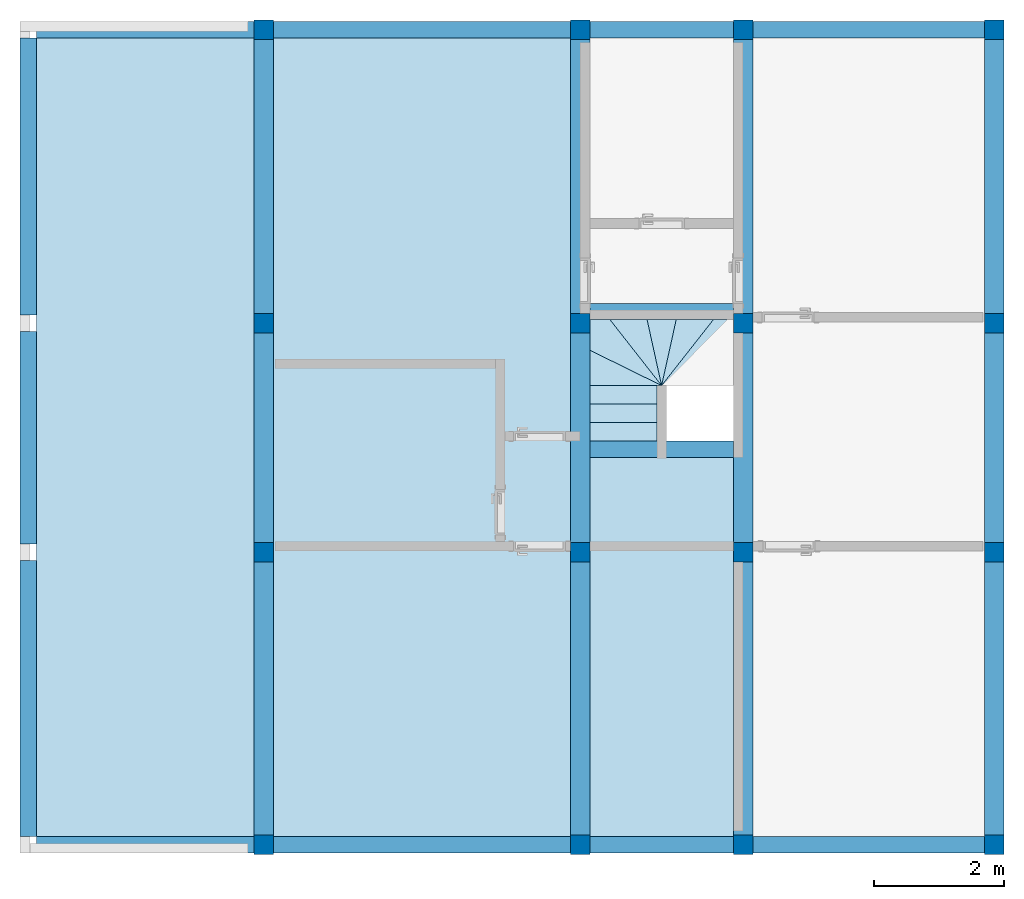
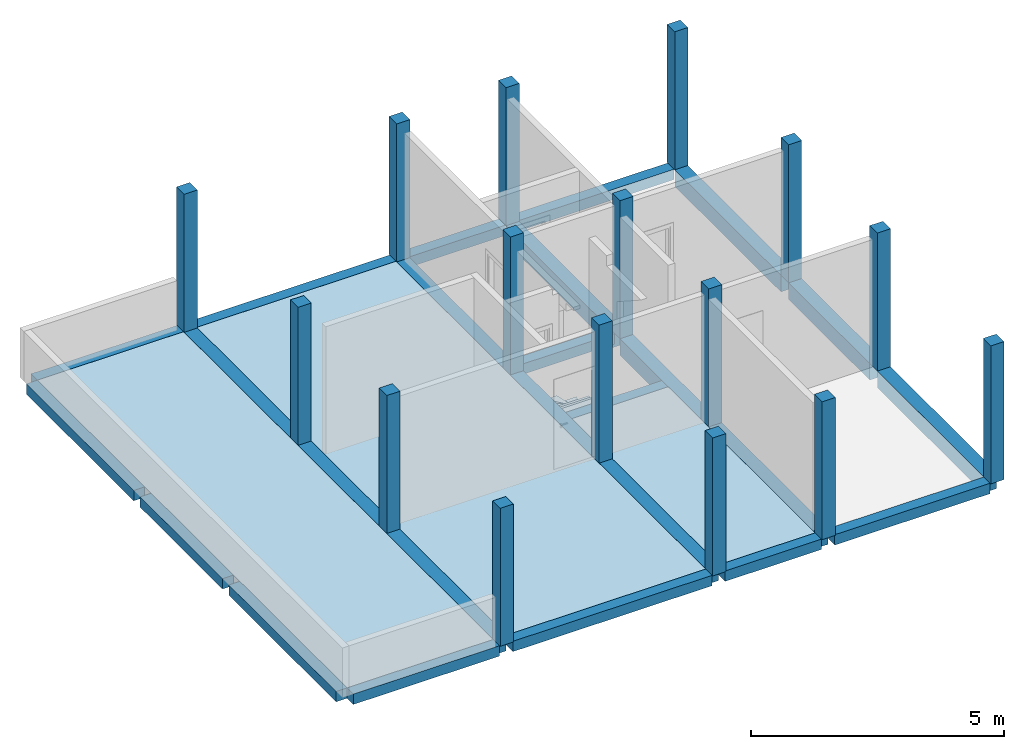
# One storey, part 1 of 11: 25 beams, 16 columns, 5 slabs.
"""IFC2X3 building model written with IfcOpenShell, lengths in metres."""

import ifcopenshell
import ifcopenshell.guid

model = None  # the IFC model being written
_history = None  # IfcOwnerHistory: only IFC2X3 demands one
_inside = {}  # id of a spatial element -> (the spatial element, [elements in it])
_under = {}  # id of a project, library or spatial element -> (it, [spatial elements below it])
_declared = {}  # id of a project -> (the project, [libraries it declares])
_typed = {}  # id of a type object -> (the type object, [elements of that type])
_made_of = {}  # id of a material, layer set ... -> (it, [elements and type objects made of it])


def new_model(schema):
    """Start an empty IFC model of exactly this schema.

    Asked for "IFC4X3", IfcOpenShell would pick the latest addendum, in which some entities
    have other attributes; the version numbers below select the first issue.
    IFC2X3 requires an IfcOwnerHistory on every rooted entity: one is made here for all.
    """
    global model, _history
    if schema == "IFC4X3":
        model = ifcopenshell.file(schema_version=(4, 3, 0, 0))
    else:
        model = ifcopenshell.file(schema=schema)
    _inside.clear()
    _under.clear()
    _declared.clear()
    _typed.clear()
    _made_of.clear()
    _history = None
    if model.schema == "IFC2X3":
        org = make("IfcOrganization", Name="unknown")
        user = make(
            "IfcPersonAndOrganization",
            ThePerson=make("IfcPerson", FamilyName="unknown"),
            TheOrganization=org,
        )
        app = make(
            "IfcApplication",
            ApplicationDeveloper=org,
            Version="unknown",
            ApplicationFullName="unknown",
            ApplicationIdentifier="unknown",
        )
        _history = make(
            "IfcOwnerHistory",
            OwningUser=user,
            OwningApplication=app,
            ChangeAction="ADDED",
            CreationDate=0,
        )
    return model


def make(cls, **values):
    """One entity of the class cls with the attributes given. An attribute that is None is left unset."""
    return model.create_entity(
        cls, **{name: value for name, value in values.items() if value is not None}
    )


def entity(cls, *values):
    """Any entity or typed value of the class cls, its attributes in the order of the schema. None: left unset."""
    e = model.create_entity(cls)
    for i, value in enumerate(values):
        if value is not None:
            e[i] = value
    return e


def rooted(cls, **values):
    """An entity with a GlobalId (a new one), such as an element, a storey or a relation."""
    return make(cls, GlobalId=ifcopenshell.guid.new(), OwnerHistory=_history, **values)


def si_unit(unit_type, name, prefix=None):
    """IfcSIUnit, for example si_unit("LENGTHUNIT", "METRE", prefix="MILLI")."""
    return make("IfcSIUnit", UnitType=unit_type, Prefix=prefix, Name=name)


def converted_unit(unit_type, name, factor, base, dimensions=None, offset=None):
    """IfcConversionBasedUnit, such as the inch: factor (a typed value) times the base unit."""
    return make(
        "IfcConversionBasedUnit"
        if offset is None
        else "IfcConversionBasedUnitWithOffset",
        ConversionOffset=offset,
        Dimensions=None
        if dimensions is None
        else entity("IfcDimensionalExponents", *dimensions),
        UnitType=unit_type,
        Name=name,
        ConversionFactor=make(
            "IfcMeasureWithUnit", ValueComponent=factor, UnitComponent=base
        ),
    )


def derived_unit(unit_type, elements):
    """IfcDerivedUnit: a product of units, each with its exponent."""
    return make(
        "IfcDerivedUnit",
        Elements=[
            make("IfcDerivedUnitElement", Unit=unit, Exponent=power)
            for unit, power in elements
        ],
        UnitType=unit_type,
    )


def assignment(units):
    """IfcUnitAssignment: the units of a project."""
    return None if units is None else make("IfcUnitAssignment", Units=units)


def point(xyz):
    """IfcCartesianPoint."""
    return None if xyz is None else make("IfcCartesianPoint", Coordinates=xyz)


def direction(xyz):
    """IfcDirection."""
    return None if xyz is None else make("IfcDirection", DirectionRatios=xyz)


def frame(location, z_axis=None, x_axis=None):
    """IfcAxis2Placement3D, a coordinate frame: its origin and axes. An axis left out is left unset."""
    return make(
        "IfcAxis2Placement3D",
        Location=point(location),
        Axis=direction(z_axis),
        RefDirection=direction(x_axis),
    )


def frame_2d(location, x_axis=None):
    """IfcAxis2Placement2D, a coordinate frame in the plane: its origin and x axis."""
    return make(
        "IfcAxis2Placement2D", Location=point(location), RefDirection=direction(x_axis)
    )


def origin():
    """The frame at (0, 0, 0) with its axes left unset."""
    return frame((0.0, 0.0, 0.0))


def origin_2d_with_axis():
    """The frame at (0, 0) in the plane with the x axis (1, 0) written out."""
    return frame_2d((0.0, 0.0), x_axis=(1.0, 0.0))


def place(relative_to, where):
    """IfcLocalPlacement: puts the frame where relative to a parent placement (None: the world)."""
    return make(
        "IfcLocalPlacement", PlacementRelTo=relative_to, RelativePlacement=where
    )


def context(
    kind, dimensions, precision=None, world=None, true_north=None, identifier=None
):
    """IfcGeometricRepresentationContext, for example the 3D "Model" context."""
    return make(
        "IfcGeometricRepresentationContext",
        ContextIdentifier=identifier,
        ContextType=kind,
        CoordinateSpaceDimension=dimensions,
        Precision=precision,
        WorldCoordinateSystem=world,
        TrueNorth=true_north,
    )


def subcontext(parent, identifier, kind, view, scale=None):
    """IfcGeometricRepresentationSubContext, for example "Body" below "Model"."""
    return make(
        "IfcGeometricRepresentationSubContext",
        ContextIdentifier=identifier,
        ContextType=kind,
        ParentContext=parent,
        TargetScale=scale,
        TargetView=view,
    )


def project(units=None, contexts=None):
    """IfcProject with its units and contexts."""
    return rooted(
        "IfcProject",
        Name="project",
        RepresentationContexts=contexts,
        UnitsInContext=assignment(units),
    )


def spatial(cls, under=None, at=None, **own):
    """A site, building, storey or space (cls), placed at a placement, below another one or the project."""
    s = rooted(cls, ObjectPlacement=at, **own)
    if under is not None:
        _under.setdefault(under.id(), (under, []))[1].append(s)
    return s


def polyline(points):
    """IfcPolyline through the points."""
    return make("IfcPolyline", Points=[point(p) for p in points])


def profile(cls, at=None, kind="AREA", **sizes):
    """A parametric profile (cls). Its sizes go by their IFC names, for example OverallWidth=200.0."""
    return make(cls, ProfileType=kind, Position=at, **sizes)


def rectangle(**sizes):
    """IfcRectangleProfileDef."""
    return profile("IfcRectangleProfileDef", **sizes)


def outline(outer, holes=None, kind="AREA"):
    """IfcArbitraryClosedProfileDef: a profile drawn as a closed curve; with holes, ...WithVoids."""
    if holes is None:
        return make("IfcArbitraryClosedProfileDef", ProfileType=kind, OuterCurve=outer)
    return make(
        "IfcArbitraryProfileDefWithVoids",
        ProfileType=kind,
        OuterCurve=outer,
        InnerCurves=holes,
    )


def extrude(swept, where, along, depth):
    """IfcExtrudedAreaSolid: the profile swept, set in the frame where, extruded along a direction by depth."""
    return make(
        "IfcExtrudedAreaSolid",
        SweptArea=swept,
        Position=where,
        ExtrudedDirection=direction(along),
        Depth=depth,
    )


def shape(context_of_items, identifier, shape_type, items):
    """IfcShapeRepresentation: the items that make up one representation, for example the "Body"."""
    return make(
        "IfcShapeRepresentation",
        ContextOfItems=context_of_items,
        RepresentationIdentifier=identifier,
        RepresentationType=shape_type,
        Items=items,
    )


def source(mapping_origin, context_of_items, identifier, shape_type, items):
    """IfcRepresentationMap: a shape defined once, which mapped items show again and again."""
    return make(
        "IfcRepresentationMap",
        MappingOrigin=mapping_origin,
        MappedRepresentation=shape(context_of_items, identifier, shape_type, items),
    )


def transform(
    local_origin,
    x_axis=None,
    y_axis=None,
    z_axis=None,
    scale=None,
    scale2=None,
    scale3=None,
    uniform=True,
):
    """IfcCartesianTransformationOperator3D, or its non-uniform kind. x_axis, y_axis, z_axis: its Axis1, 2, 3."""
    if uniform:
        return make(
            "IfcCartesianTransformationOperator3D",
            Axis1=direction(x_axis),
            Axis2=direction(y_axis),
            LocalOrigin=point(local_origin),
            Scale=scale,
            Axis3=direction(z_axis),
        )
    return make(
        "IfcCartesianTransformationOperator3DnonUniform",
        Axis1=direction(x_axis),
        Axis2=direction(y_axis),
        LocalOrigin=point(local_origin),
        Scale=scale,
        Axis3=direction(z_axis),
        Scale2=scale2,
        Scale3=scale3,
    )


def mapped(mapping_source, mapping_target):
    """IfcMappedItem: shows the shape of a source again, moved by a transform."""
    return make(
        "IfcMappedItem", MappingSource=mapping_source, MappingTarget=mapping_target
    )


def material(Name=None, Category=None):
    """IfcMaterial."""
    return make("IfcMaterial", Name=Name, Category=Category)


def layer(
    of_material, thickness, ventilated=None, Name=None, Category=None, Priority=None
):
    """IfcMaterialLayer: one layer of a wall or slab, of a material (None: an air gap)."""
    return make(
        "IfcMaterialLayer",
        Material=of_material,
        LayerThickness=thickness,
        IsVentilated=ventilated,
        Name=Name,
        Category=Category,
        Priority=Priority,
    )


def layer_set(layers, Name=None):
    """IfcMaterialLayerSet."""
    return make("IfcMaterialLayerSet", MaterialLayers=layers, LayerSetName=Name)


def layer_usage(for_layer_set, set_direction, sense, offset, extent=None):
    """IfcMaterialLayerSetUsage: how a layer set lies in its element."""
    return make(
        "IfcMaterialLayerSetUsage",
        ForLayerSet=for_layer_set,
        LayerSetDirection=set_direction,
        DirectionSense=sense,
        OffsetFromReferenceLine=offset,
        ReferenceExtent=extent,
    )


def made_of(thing, what):
    """Note that an element or type object is made of a material, layer set ...; save() writes the relation."""
    if what is not None:
        _made_of.setdefault(what.id(), (what, []))[1].append(thing)
    return thing


def type_object(cls, material=None, **own):
    """A type object (cls), such as IfcWallType, which elements share."""
    return made_of(rooted(cls, **own), material)


def type_shapes(of_type, sources):
    """Give a type object the sources (RepresentationMaps) that its elements show as mapped items."""
    of_type.RepresentationMaps = sources


def element(
    cls,
    number,
    at=None,
    inside=None,
    cuts=None,
    type_object=None,
    material=None,
    context=None,
    identifier="Body",
    shape_type=None,
    held_by="IfcProductDefinitionShape",
    body=None,
    shapes=None,
    **own,
):
    """One element of the class cls, such as IfcWall. Its Tag is "e" and its number.

    at: its placement. inside: the storey or other place that contains it. cuts: it is an
    opening in that element (IfcRelVoidsElement). A single representation is given by context,
    identifier, shape_type and body (its items); several are given by shapes. held_by: the class
    of the entity that holds the representations. save() writes the other relations.
    """
    e = rooted(cls, Tag="e%d" % number, ObjectPlacement=at, **own)
    if body is not None:
        shapes = [shape(context, identifier, shape_type, body)]
    if shapes is not None:
        e.Representation = make(held_by, Representations=shapes)
    if inside is not None:
        _inside.setdefault(inside.id(), (inside, []))[1].append(e)
    if cuts is not None:
        rooted(
            "IfcRelVoidsElement", RelatingBuildingElement=cuts, RelatedOpeningElement=e
        )
    if type_object is not None:
        _typed.setdefault(type_object.id(), (type_object, []))[1].append(e)
    return made_of(e, material)


def aggregate(whole, parts):
    """IfcRelAggregates: a whole, such as a stair, and the parts it consists of."""
    return rooted("IfcRelAggregates", RelatingObject=whole, RelatedObjects=parts)


def save(model, path):
    """Write the relations noted so far, then the file.

    IfcRelAggregates (storeys below a building ...), IfcRelContainedInSpatialStructure (elements
    in a storey), IfcRelDefinesByType, IfcRelAssociatesMaterial and IfcRelDeclares: one each for
    every whole, place, type object, material and project.
    """
    for whole, parts in _under.values():
        aggregate(whole, parts)
    for where, things in _inside.values():
        rooted(
            "IfcRelContainedInSpatialStructure",
            RelatedElements=things,
            RelatingStructure=where,
        )
    for kind, things in _typed.values():
        rooted("IfcRelDefinesByType", RelatedObjects=things, RelatingType=kind)
    for what, things in _made_of.values():
        rooted("IfcRelAssociatesMaterial", RelatedObjects=things, RelatingMaterial=what)
    for by, libraries in _declared.values():
        rooted("IfcRelDeclares", RelatingContext=by, RelatedDefinitions=libraries)
    model.write(path)


model = new_model("IFC2X3")

# Units and contexts
model_context = context("Model", 3, precision=1e-05, world=origin(), true_north=direction((6.12303176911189e-17, 1.0)))
context_of_model = context(None, 3, precision=1e-05, world=origin(), true_north=direction((6.12303176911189e-17, 1.0)))
body_context = subcontext(model_context, "Body", "Model", "MODEL_VIEW")
ifc_project = project(units=[si_unit("LENGTHUNIT", "METRE"), si_unit("AREAUNIT", "SQUARE_METRE"), si_unit("VOLUMEUNIT", "CUBIC_METRE"), converted_unit("PLANEANGLEUNIT", "DEGREE", entity("IfcRatioMeasure", 0.0174532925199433), si_unit("PLANEANGLEUNIT", "RADIAN"), dimensions=[0, 0, 0, 0, 0, 0, 0]), si_unit("MASSUNIT", "GRAM", prefix="KILO"), si_unit("TIMEUNIT", "SECOND"), si_unit("FREQUENCYUNIT", "HERTZ"), si_unit("THERMODYNAMICTEMPERATUREUNIT", "DEGREE_CELSIUS"), derived_unit("THERMALTRANSMITTANCEUNIT", [(si_unit("MASSUNIT", "GRAM", prefix="KILO"), 1), (si_unit("THERMODYNAMICTEMPERATUREUNIT", "KELVIN"), -1), (si_unit("TIMEUNIT", "SECOND"), -3)]), derived_unit("VOLUMETRICFLOWRATEUNIT", [(si_unit("LENGTHUNIT", "METRE"), 3), (si_unit("TIMEUNIT", "SECOND"), -1)]), si_unit("ELECTRICCURRENTUNIT", "AMPERE"), si_unit("ELECTRICVOLTAGEUNIT", "VOLT"), si_unit("POWERUNIT", "WATT"), si_unit("FORCEUNIT", "NEWTON", prefix="KILO"), si_unit("ILLUMINANCEUNIT", "LUX"), si_unit("LUMINOUSFLUXUNIT", "LUMEN"), si_unit("LUMINOUSINTENSITYUNIT", "CANDELA"), si_unit("PRESSUREUNIT", "PASCAL")], contexts=[model_context, context_of_model])

# Site, building, storey
site_placement = place(None, origin())
site = spatial("IfcSite", under=ifc_project, at=site_placement, Name="Default", CompositionType="ELEMENT")
building_placement = place(site_placement, origin())
building = spatial("IfcBuilding", under=site, at=building_placement, CompositionType="ELEMENT")
storey_placement = place(building_placement, frame((0.0, 0.0, 3.45)))
storey = spatial("IfcBuildingStorey", under=building, at=storey_placement, Name="02.ES.PLANTA PRIMERA", CompositionType="ELEMENT", Elevation=3.45)

# Columns
column_type_1 = type_object("IfcColumnType", Name="300 x 300 mm", PredefinedType="COLUMN")
shared_shape_1 = source(origin(), body_context, "Body", "SweptSolid", [
    extrude(rectangle(XDim=0.3, YDim=0.300000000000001, at=frame_2d((0.0, -0.0416666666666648), x_axis=(1.0, 0.0))), frame((4.21500000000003, 13.0583333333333, 3.45), z_axis=(0.0, 0.0, 1.0), x_axis=(-1.0, 0.0, 0.0)), (0.0, 0.0, 1.0), 3.33),
])
type_shapes(column_type_1, [shared_shape_1])
column_1_placement = place(storey_placement, frame((0.0, 0.0, -3.45)))
element("IfcColumn", 1, at=column_1_placement, inside=storey, type_object=column_type_1, Name="Pilar rectangular hormigón:300 x 300 mm", ObjectType="300 x 300 mm", context=body_context, shape_type="MappedRepresentation", body=[
    mapped(shared_shape_1, transform((0.0, 0.0, 0.0), scale=1.0)),
])
column_type_2 = type_object("IfcColumnType", Name="300 x 300 mm", PredefinedType="COLUMN")
shared_shape_2 = source(origin(), body_context, "Body", "SweptSolid", [
    extrude(rectangle(XDim=0.3, YDim=0.300000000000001, at=frame_2d((1.08246744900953e-15, -1.08246744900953e-15), x_axis=(1.0, 0.0))), frame((9.065, 13.1, 3.45), z_axis=(0.0, 0.0, 1.0), x_axis=(-1.0, 0.0, 0.0)), (0.0, 0.0, 1.0), 3.33),
])
type_shapes(column_type_2, [shared_shape_2])
column_2_placement = place(storey_placement, frame((0.0, 0.0, -3.45)))
element("IfcColumn", 2, at=column_2_placement, inside=storey, type_object=column_type_2, Name="Pilar rectangular hormigón:300 x 300 mm", ObjectType="300 x 300 mm", context=body_context, shape_type="MappedRepresentation", body=[
    mapped(shared_shape_2, transform((0.0, 0.0, 0.0), scale=1.0)),
])
column_type_3 = type_object("IfcColumnType", Name="300 x 300 mm", PredefinedType="COLUMN")
shared_shape_3 = source(origin(), body_context, "Body", "SweptSolid", [
    extrude(rectangle(XDim=0.299999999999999, YDim=0.300000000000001, at=frame_2d((0.0300000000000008, 0.0249999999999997), x_axis=(1.0, 0.0))), frame((11.595, 13.125, 3.45), z_axis=(0.0, 0.0, 1.0), x_axis=(-1.0, 0.0, 0.0)), (0.0, 0.0, 1.0), 3.33),
])
type_shapes(column_type_3, [shared_shape_3])
column_3_placement = place(storey_placement, frame((0.0, 0.0, -3.45)))
element("IfcColumn", 3, at=column_3_placement, inside=storey, type_object=column_type_3, Name="Pilar rectangular hormigón:300 x 300 mm", ObjectType="300 x 300 mm", context=body_context, shape_type="MappedRepresentation", body=[
    mapped(shared_shape_3, transform((0.0, 0.0, 0.0), scale=1.0)),
])
column_type_4 = type_object("IfcColumnType", Name="300 x 300 mm", PredefinedType="COLUMN")
shared_shape_4 = source(origin(), body_context, "Body", "SweptSolid", [
    extrude(rectangle(XDim=0.299999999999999, YDim=0.300000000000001, at=frame_2d((-0.0299999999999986, 0.0250000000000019), x_axis=(1.0, 0.0))), frame((15.385, 13.125, 3.45), z_axis=(0.0, 0.0, 1.0), x_axis=(-1.0, 0.0, 0.0)), (0.0, 0.0, 1.0), 3.33),
])
type_shapes(column_type_4, [shared_shape_4])
column_4_placement = place(storey_placement, frame((0.0, 0.0, -3.45)))
element("IfcColumn", 4, at=column_4_placement, inside=storey, type_object=column_type_4, Name="Pilar rectangular hormigón:300 x 300 mm", ObjectType="300 x 300 mm", context=body_context, shape_type="MappedRepresentation", body=[
    mapped(shared_shape_4, transform((0.0, 0.0, 0.0), scale=1.0)),
])
column_type_5 = type_object("IfcColumnType", Name="300 x 300 mm", PredefinedType="COLUMN")
shared_shape_5 = source(origin(), body_context, "Body", "SweptSolid", [
    extrude(rectangle(XDim=0.3, YDim=0.3, at=frame_2d((0.0, 5.41233724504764e-16), x_axis=(1.0, 0.0))), frame((4.21500000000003, 8.60000000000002, 3.45), z_axis=(0.0, 0.0, 1.0), x_axis=(-1.0, 0.0, 0.0)), (0.0, 0.0, 1.0), 3.33),
])
type_shapes(column_type_5, [shared_shape_5])
column_5_placement = place(storey_placement, frame((0.0, 0.0, -3.45)))
element("IfcColumn", 5, at=column_5_placement, inside=storey, type_object=column_type_5, Name="Pilar rectangular hormigón:300 x 300 mm", ObjectType="300 x 300 mm", context=body_context, shape_type="MappedRepresentation", body=[
    mapped(shared_shape_5, transform((0.0, 0.0, 0.0), scale=1.0)),
])
column_type_6 = type_object("IfcColumnType", Name="300 x 300 mm", PredefinedType="COLUMN")
shared_shape_6 = source(origin(), body_context, "Body", "SweptSolid", [
    extrude(rectangle(XDim=0.3, YDim=0.3, at=frame_2d((5.41233724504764e-16, 5.41233724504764e-16), x_axis=(1.0, 0.0))), frame((9.065, 8.60000000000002, 3.45), z_axis=(0.0, 0.0, 1.0), x_axis=(-1.0, 0.0, 0.0)), (0.0, 0.0, 1.0), 3.33),
])
type_shapes(column_type_6, [shared_shape_6])
column_6_placement = place(storey_placement, frame((0.0, 0.0, -3.45)))
element("IfcColumn", 6, at=column_6_placement, inside=storey, type_object=column_type_6, Name="Pilar rectangular hormigón:300 x 300 mm", ObjectType="300 x 300 mm", context=body_context, shape_type="MappedRepresentation", body=[
    mapped(shared_shape_6, transform((0.0, 0.0, 0.0), scale=1.0)),
])
column_type_7 = type_object("IfcColumnType", Name="300 x 300 mm", PredefinedType="COLUMN")
shared_shape_7 = source(origin(), body_context, "Body", "SweptSolid", [
    extrude(rectangle(XDim=0.299999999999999, YDim=0.3, at=frame_2d((-0.021428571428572, 0.00785714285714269), x_axis=(1.0, 0.0))), frame((11.5435714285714, 8.60785714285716, 3.45), z_axis=(0.0, 0.0, 1.0), x_axis=(-1.0, 0.0, 0.0)), (0.0, 0.0, 1.0), 3.33),
])
type_shapes(column_type_7, [shared_shape_7])
column_7_placement = place(storey_placement, frame((0.0, 0.0, -3.45)))
element("IfcColumn", 7, at=column_7_placement, inside=storey, type_object=column_type_7, Name="Pilar rectangular hormigón:300 x 300 mm", ObjectType="300 x 300 mm", context=body_context, shape_type="MappedRepresentation", body=[
    mapped(shared_shape_7, transform((0.0, 0.0, 0.0), scale=1.0)),
])
column_type_8 = type_object("IfcColumnType", Name="300 x 300 mm", PredefinedType="COLUMN")
shared_shape_8 = source(origin(), body_context, "Body", "SweptSolid", [
    extrude(rectangle(XDim=0.299999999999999, YDim=0.3, at=frame_2d((1.08246744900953e-15, 5.41233724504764e-16), x_axis=(1.0, 0.0))), frame((15.415, 8.60000000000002, 3.45), z_axis=(0.0, 0.0, 1.0), x_axis=(-1.0, 0.0, 0.0)), (0.0, 0.0, 1.0), 3.33),
])
type_shapes(column_type_8, [shared_shape_8])
column_8_placement = place(storey_placement, frame((0.0, 0.0, -3.45)))
element("IfcColumn", 8, at=column_8_placement, inside=storey, type_object=column_type_8, Name="Pilar rectangular hormigón:300 x 300 mm", ObjectType="300 x 300 mm", context=body_context, shape_type="MappedRepresentation", body=[
    mapped(shared_shape_8, transform((0.0, 0.0, 0.0), scale=1.0)),
])
column_type_9 = type_object("IfcColumnType", Name="300 x 300 mm", PredefinedType="COLUMN")
shared_shape_9 = source(origin(), body_context, "Body", "SweptSolid", [
    extrude(rectangle(XDim=0.3, YDim=0.3, at=frame_2d((0.0, 5.41233724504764e-16), x_axis=(1.0, 0.0))), frame((4.21500000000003, 5.09006108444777, 3.45), z_axis=(0.0, 0.0, 1.0), x_axis=(-1.0, 0.0, 0.0)), (0.0, 0.0, 1.0), 3.33),
])
type_shapes(column_type_9, [shared_shape_9])
column_9_placement = place(storey_placement, frame((0.0, 0.0, -3.45)))
element("IfcColumn", 9, at=column_9_placement, inside=storey, type_object=column_type_9, Name="Pilar rectangular hormigón:300 x 300 mm", ObjectType="300 x 300 mm", context=body_context, shape_type="MappedRepresentation", body=[
    mapped(shared_shape_9, transform((0.0, 0.0, 0.0), scale=1.0)),
])
column_type_10 = type_object("IfcColumnType", Name="300 x 300 mm", PredefinedType="COLUMN")
shared_shape_10 = source(origin(), body_context, "Body", "SweptSolid", [
    extrude(rectangle(XDim=0.3, YDim=0.3, at=frame_2d((5.41233724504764e-16, 0.00500000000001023), x_axis=(1.0, 0.0))), frame((9.065, 5.09506108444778, 3.45), z_axis=(0.0, 0.0, 1.0), x_axis=(-1.0, 0.0, 0.0)), (0.0, 0.0, 1.0), 3.33),
])
type_shapes(column_type_10, [shared_shape_10])
column_10_placement = place(storey_placement, frame((0.0, 0.0, -3.45)))
element("IfcColumn", 10, at=column_10_placement, inside=storey, type_object=column_type_10, Name="Pilar rectangular hormigón:300 x 300 mm", ObjectType="300 x 300 mm", context=body_context, shape_type="MappedRepresentation", body=[
    mapped(shared_shape_10, transform((0.0, 0.0, 0.0), scale=1.0)),
])
column_type_11 = type_object("IfcColumnType", Name="300 x 300 mm", PredefinedType="COLUMN")
shared_shape_11 = source(origin(), body_context, "Body", "SweptSolid", [
    extrude(rectangle(XDim=0.299999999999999, YDim=0.3, at=frame_2d((1.08246744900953e-15, 0.00500000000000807), x_axis=(1.0, 0.0))), frame((11.565, 5.09506108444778, 3.45), z_axis=(0.0, 0.0, 1.0), x_axis=(-1.0, 0.0, 0.0)), (0.0, 0.0, 1.0), 3.33),
])
type_shapes(column_type_11, [shared_shape_11])
column_11_placement = place(storey_placement, frame((0.0, 0.0, -3.45)))
element("IfcColumn", 11, at=column_11_placement, inside=storey, type_object=column_type_11, Name="Pilar rectangular hormigón:300 x 300 mm", ObjectType="300 x 300 mm", context=body_context, shape_type="MappedRepresentation", body=[
    mapped(shared_shape_11, transform((0.0, 0.0, 0.0), scale=1.0)),
])
column_type_12 = type_object("IfcColumnType", Name="300 x 300 mm", PredefinedType="COLUMN")
shared_shape_12 = source(origin(), body_context, "Body", "SweptSolid", [
    extrude(rectangle(XDim=0.299999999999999, YDim=0.3, at=frame_2d((1.08246744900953e-15, 5.41233724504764e-16), x_axis=(1.0, 0.0))), frame((15.415, 5.09006108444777, 3.45), z_axis=(0.0, 0.0, 1.0), x_axis=(-1.0, 0.0, 0.0)), (0.0, 0.0, 1.0), 3.33),
])
type_shapes(column_type_12, [shared_shape_12])
column_12_placement = place(storey_placement, frame((0.0, 0.0, -3.45)))
element("IfcColumn", 12, at=column_12_placement, inside=storey, type_object=column_type_12, Name="Pilar rectangular hormigón:300 x 300 mm", ObjectType="300 x 300 mm", context=body_context, shape_type="MappedRepresentation", body=[
    mapped(shared_shape_12, transform((0.0, 0.0, 0.0), scale=1.0)),
])
column_type_13 = type_object("IfcColumnType", Name="300 x 300 mm", PredefinedType="COLUMN")
shared_shape_13 = source(origin(), body_context, "Body", "SweptSolid", [
    extrude(rectangle(XDim=0.3, YDim=0.3, at=frame_2d((0.0, -6.93889390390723e-17), x_axis=(1.0, 0.0))), frame((4.21500000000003, 0.600000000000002, 3.45), z_axis=(0.0, 0.0, 1.0), x_axis=(-1.0, 0.0, 0.0)), (0.0, 0.0, 1.0), 3.33),
])
type_shapes(column_type_13, [shared_shape_13])
column_13_placement = place(storey_placement, frame((0.0, 0.0, -3.45)))
element("IfcColumn", 13, at=column_13_placement, inside=storey, type_object=column_type_13, Name="Pilar rectangular hormigón:300 x 300 mm", ObjectType="300 x 300 mm", context=body_context, shape_type="MappedRepresentation", body=[
    mapped(shared_shape_13, transform((0.0, 0.0, 0.0), scale=1.0)),
])
column_type_14 = type_object("IfcColumnType", Name="300 x 300 mm", PredefinedType="COLUMN")
shared_shape_14 = source(origin(), body_context, "Body", "SweptSolid", [
    extrude(rectangle(XDim=0.3, YDim=0.3, at=frame_2d((5.41233724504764e-16, -6.93889390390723e-17), x_axis=(1.0, 0.0))), frame((9.065, 0.600000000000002, 3.45), z_axis=(0.0, 0.0, 1.0), x_axis=(-1.0, 0.0, 0.0)), (0.0, 0.0, 1.0), 3.33),
])
type_shapes(column_type_14, [shared_shape_14])
column_14_placement = place(storey_placement, frame((0.0, 0.0, -3.45)))
element("IfcColumn", 14, at=column_14_placement, inside=storey, type_object=column_type_14, Name="Pilar rectangular hormigón:300 x 300 mm", ObjectType="300 x 300 mm", context=body_context, shape_type="MappedRepresentation", body=[
    mapped(shared_shape_14, transform((0.0, 0.0, 0.0), scale=1.0)),
])
column_type_15 = type_object("IfcColumnType", Name="300 x 300 mm", PredefinedType="COLUMN")
shared_shape_15 = source(origin(), body_context, "Body", "SweptSolid", [
    extrude(rectangle(XDim=0.299999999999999, YDim=0.3, at=frame_2d((0.0300000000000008, -0.0250000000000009), x_axis=(1.0, 0.0))), frame((11.595, 0.575000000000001, 3.45), z_axis=(0.0, 0.0, 1.0), x_axis=(-1.0, 0.0, 0.0)), (0.0, 0.0, 1.0), 3.33),
])
type_shapes(column_type_15, [shared_shape_15])
column_15_placement = place(storey_placement, frame((0.0, 0.0, -3.45)))
element("IfcColumn", 15, at=column_15_placement, inside=storey, type_object=column_type_15, Name="Pilar rectangular hormigón:300 x 300 mm", ObjectType="300 x 300 mm", context=body_context, shape_type="MappedRepresentation", body=[
    mapped(shared_shape_15, transform((0.0, 0.0, 0.0), scale=1.0)),
])
column_type_16 = type_object("IfcColumnType", Name="300 x 300 mm", PredefinedType="COLUMN")
shared_shape_16 = source(origin(), body_context, "Body", "SweptSolid", [
    extrude(rectangle(XDim=0.299999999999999, YDim=0.3, at=frame_2d((-0.0299999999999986, -0.0250000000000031), x_axis=(1.0, 0.0))), frame((15.385, 0.574999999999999, 3.45), z_axis=(0.0, 0.0, 1.0), x_axis=(-1.0, 0.0, 0.0)), (0.0, 0.0, 1.0), 3.33),
])
type_shapes(column_type_16, [shared_shape_16])
column_16_placement = place(storey_placement, frame((0.0, 0.0, -3.45)))
element("IfcColumn", 16, at=column_16_placement, inside=storey, type_object=column_type_16, Name="Pilar rectangular hormigón:300 x 300 mm", ObjectType="300 x 300 mm", context=body_context, shape_type="MappedRepresentation", body=[
    mapped(shared_shape_16, transform((0.0, 0.0, 0.0), scale=1.0)),
])

# Beams
beam_1_placement = place(storey_placement, frame((0.600000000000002, 0.725000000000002, 0.0), z_axis=(0.0, 0.0, 1.0), x_axis=(0.0, 1.0, 0.0)))
element("IfcBeam", 17, at=beam_1_placement, inside=storey, Name="Hormigón-Viga rectangular:250 x 250 mm", ObjectType="Hormigón-Viga rectangular:250 x 250 mm", context=body_context, shape_type="SweptSolid", body=[
    extrude(rectangle(XDim=0.25, YDim=0.250000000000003, at=frame_2d((-2.70616862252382e-16, -6.93889390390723e-17), x_axis=(1.0, 0.0))), frame((0.0, 0.0, -0.125000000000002), z_axis=(1.0, 0.0, 0.0), x_axis=(0.0, 0.0, -1.0)), (0.0, 0.0, 1.0), 4.24006108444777),
])
beam_2_placement = place(storey_placement, frame((0.600000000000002, 5.21506108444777, 0.0), z_axis=(0.0, 0.0, 1.0), x_axis=(0.0, 1.0, 0.0)))
element("IfcBeam", 18, at=beam_2_placement, inside=storey, Name="Hormigón-Viga rectangular:250 x 250 mm", ObjectType="Hormigón-Viga rectangular:250 x 250 mm", context=body_context, shape_type="SweptSolid", body=[
    extrude(rectangle(XDim=0.25, YDim=0.250000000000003, at=frame_2d((-2.70616862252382e-16, 0.0), x_axis=(1.0, 0.0))), frame((0.0, 0.0, -0.125000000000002), z_axis=(1.0, 0.0, 0.0), x_axis=(0.0, 0.0, -1.0)), (0.0, 0.0, 1.0), 3.25993891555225),
])
beam_3_placement = place(storey_placement, frame((0.600000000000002, 8.72500000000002, 0.0), z_axis=(0.0, 0.0, 1.0), x_axis=(0.0, 1.0, 0.0)))
element("IfcBeam", 19, at=beam_3_placement, inside=storey, Name="Hormigón-Viga rectangular:250 x 250 mm", ObjectType="Hormigón-Viga rectangular:250 x 250 mm", context=body_context, shape_type="SweptSolid", body=[
    extrude(rectangle(XDim=0.25, YDim=0.250000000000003, at=frame_2d((-2.70616862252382e-16, -6.93889390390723e-17), x_axis=(1.0, 0.0))), frame((0.0, 0.0, -0.125000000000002), z_axis=(1.0, 0.0, 0.0), x_axis=(0.0, 0.0, -1.0)), (0.0, 0.0, 1.0), 4.24999999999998),
])
beam_4_placement = place(storey_placement, frame((4.21500000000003, 0.724999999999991, 0.0), z_axis=(0.0, 0.0, 1.0), x_axis=(0.0, 1.0, 0.0)))
element("IfcBeam", 20, at=beam_4_placement, inside=storey, Name="Hormigón-Viga rectangular:300 x 400 mm", ObjectType="Hormigón-Viga rectangular:300 x 400 mm", context=body_context, shape_type="SweptSolid", body=[
    extrude(rectangle(XDim=0.4, YDim=0.300000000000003, at=frame_2d((0.0, -2.63677968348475e-16), x_axis=(1.0, 0.0))), frame((0.0250000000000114, 0.0, -0.200000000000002), z_axis=(1.0, 0.0, 0.0), x_axis=(0.0, 0.0, -1.0)), (0.0, 0.0, 1.0), 4.19006108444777),
])
beam_5_placement = place(storey_placement, frame((4.21500000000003, 5.21506108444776, 0.0), z_axis=(0.0, 0.0, 1.0), x_axis=(0.0, 1.0, 0.0)))
element("IfcBeam", 21, at=beam_5_placement, inside=storey, Name="Hormigón-Viga rectangular:300 x 400 mm", ObjectType="Hormigón-Viga rectangular:300 x 400 mm", context=body_context, shape_type="SweptSolid", body=[
    extrude(rectangle(XDim=0.4, YDim=0.300000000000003, at=origin_2d_with_axis()), frame((0.0250000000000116, 0.0, -0.200000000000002), z_axis=(1.0, 0.0, 0.0), x_axis=(0.0, 0.0, -1.0)), (0.0, 0.0, 1.0), 3.20993891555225),
])
beam_6_placement = place(storey_placement, frame((4.21500000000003, 8.72500000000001, 0.0), z_axis=(0.0, 0.0, 1.0), x_axis=(0.0, 1.0, 0.0)))
element("IfcBeam", 22, at=beam_6_placement, inside=storey, Name="Hormigón-Viga rectangular:300 x 400 mm", ObjectType="Hormigón-Viga rectangular:300 x 400 mm", context=body_context, shape_type="SweptSolid", body=[
    extrude(rectangle(XDim=0.4, YDim=0.300000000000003, at=frame_2d((0.0, -2.63677968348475e-16), x_axis=(1.0, 0.0))), frame((0.0250000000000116, 0.0, -0.200000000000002), z_axis=(1.0, 0.0, 0.0), x_axis=(0.0, 0.0, -1.0)), (0.0, 0.0, 1.0), 4.19999999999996),
])
beam_7_placement = place(storey_placement, frame((9.065, 0.724999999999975, 0.0), z_axis=(0.0, 0.0, 1.0), x_axis=(0.0, 1.0, 0.0)))
element("IfcBeam", 23, at=beam_7_placement, inside=storey, Name="Hormigón-Viga rectangular:300 x 400 mm", ObjectType="Hormigón-Viga rectangular:300 x 400 mm", context=body_context, shape_type="SweptSolid", body=[
    extrude(rectangle(XDim=0.4, YDim=0.300000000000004, at=frame_2d((0.0, -5.41233724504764e-16), x_axis=(1.0, 0.0))), frame((0.0250000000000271, 0.0, -0.200000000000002), z_axis=(1.0, 0.0, 0.0), x_axis=(0.0, 0.0, -1.0)), (0.0, 0.0, 1.0), 4.19006108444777),
])
beam_8_placement = place(storey_placement, frame((9.065, 5.21506108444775, 0.0), z_axis=(0.0, 0.0, 1.0), x_axis=(0.0, 1.0, 0.0)))
element("IfcBeam", 24, at=beam_8_placement, inside=storey, Name="Hormigón-Viga rectangular:300 x 400 mm", ObjectType="Hormigón-Viga rectangular:300 x 400 mm", context=body_context, shape_type="SweptSolid", body=[
    extrude(rectangle(XDim=0.4, YDim=0.300000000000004, at=frame_2d((0.0, 5.41233724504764e-16), x_axis=(1.0, 0.0))), frame((0.0250000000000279, 0.0, -0.200000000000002), z_axis=(1.0, 0.0, 0.0), x_axis=(0.0, 0.0, -1.0)), (0.0, 0.0, 1.0), 3.20993891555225),
])
beam_9_placement = place(storey_placement, frame((9.065, 8.72499999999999, 0.0), z_axis=(0.0, 0.0, 1.0), x_axis=(0.0, 1.0, 0.0)))
element("IfcBeam", 25, at=beam_9_placement, inside=storey, Name="Hormigón-Viga rectangular:300 x 400 mm", ObjectType="Hormigón-Viga rectangular:300 x 400 mm", context=body_context, shape_type="SweptSolid", body=[
    extrude(rectangle(XDim=0.4, YDim=0.300000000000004, at=frame_2d((0.0, -5.41233724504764e-16), x_axis=(1.0, 0.0))), frame((0.0250000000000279, 0.0, -0.200000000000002), z_axis=(1.0, 0.0, 0.0), x_axis=(0.0, 0.0, -1.0)), (0.0, 0.0, 1.0), 4.19999999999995),
])
beam_10_placement = place(storey_placement, frame((11.565, 0.724999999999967, 0.0), z_axis=(0.0, 0.0, 1.0), x_axis=(0.0, 1.0, 0.0)))
element("IfcBeam", 26, at=beam_10_placement, inside=storey, Name="Hormigón-Viga rectangular:300 x 400 mm", ObjectType="Hormigón-Viga rectangular:300 x 400 mm", context=body_context, shape_type="SweptSolid", body=[
    extrude(rectangle(XDim=0.4, YDim=0.300000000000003, at=frame_2d((0.0, -1.08246744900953e-15), x_axis=(1.0, 0.0))), frame((0.0250000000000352, 0.0, -0.200000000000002), z_axis=(1.0, 0.0, 0.0), x_axis=(0.0, 0.0, -1.0)), (0.0, 0.0, 1.0), 4.19006108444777),
])
beam_11_placement = place(storey_placement, frame((11.565, 5.21506108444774, 0.0), z_axis=(0.0, 0.0, 1.0), x_axis=(0.0, 1.0, 0.0)))
element("IfcBeam", 27, at=beam_11_placement, inside=storey, Name="Hormigón-Viga rectangular:300 x 400 mm", ObjectType="Hormigón-Viga rectangular:300 x 400 mm", context=body_context, shape_type="SweptSolid", body=[
    extrude(rectangle(XDim=0.4, YDim=0.300000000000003, at=frame_2d((0.0, -1.08246744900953e-15), x_axis=(1.0, 0.0))), frame((0.0250000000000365, 0.0, -0.200000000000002), z_axis=(1.0, 0.0, 0.0), x_axis=(0.0, 0.0, -1.0)), (0.0, 0.0, 1.0), 3.20993891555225),
])
beam_12_placement = place(storey_placement, frame((11.565, 8.72499999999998, 0.0), z_axis=(0.0, 0.0, 1.0), x_axis=(0.0, 1.0, 0.0)))
element("IfcBeam", 28, at=beam_12_placement, inside=storey, Name="Hormigón-Viga rectangular:300 x 400 mm", ObjectType="Hormigón-Viga rectangular:300 x 400 mm", context=body_context, shape_type="SweptSolid", body=[
    extrude(rectangle(XDim=0.4, YDim=0.300000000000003, at=frame_2d((0.0, -1.08246744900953e-15), x_axis=(1.0, 0.0))), frame((0.0250000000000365, 0.0, -0.200000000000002), z_axis=(1.0, 0.0, 0.0), x_axis=(0.0, 0.0, -1.0)), (0.0, 0.0, 1.0), 4.19999999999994),
])
beam_13_placement = place(storey_placement, frame((15.415, 0.724999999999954, 0.0), z_axis=(0.0, 0.0, 1.0), x_axis=(0.0, 1.0, 0.0)))
element("IfcBeam", 29, at=beam_13_placement, inside=storey, Name="Hormigón-Viga rectangular:300 x 400 mm", ObjectType="Hormigón-Viga rectangular:300 x 400 mm", context=body_context, shape_type="SweptSolid", body=[
    extrude(rectangle(XDim=0.4, YDim=0.300000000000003, at=frame_2d((0.0, -1.08246744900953e-15), x_axis=(1.0, 0.0))), frame((0.0250000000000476, 0.0, -0.200000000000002), z_axis=(1.0, 0.0, 0.0), x_axis=(0.0, 0.0, -1.0)), (0.0, 0.0, 1.0), 4.19006108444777),
])
beam_14_placement = place(storey_placement, frame((15.415, 5.21506108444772, 0.0), z_axis=(0.0, 0.0, 1.0), x_axis=(0.0, 1.0, 0.0)))
element("IfcBeam", 30, at=beam_14_placement, inside=storey, Name="Hormigón-Viga rectangular:300 x 400 mm", ObjectType="Hormigón-Viga rectangular:300 x 400 mm", context=body_context, shape_type="SweptSolid", body=[
    extrude(rectangle(XDim=0.4, YDim=0.300000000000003, at=frame_2d((0.0, -1.08246744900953e-15), x_axis=(1.0, 0.0))), frame((0.0250000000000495, 0.0, -0.200000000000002), z_axis=(1.0, 0.0, 0.0), x_axis=(0.0, 0.0, -1.0)), (0.0, 0.0, 1.0), 3.20993891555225),
])
beam_15_placement = place(storey_placement, frame((15.415, 8.72499999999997, 0.0), z_axis=(0.0, 0.0, 1.0), x_axis=(0.0, 1.0, 0.0)))
element("IfcBeam", 31, at=beam_15_placement, inside=storey, Name="Hormigón-Viga rectangular:300 x 400 mm", ObjectType="Hormigón-Viga rectangular:300 x 400 mm", context=body_context, shape_type="SweptSolid", body=[
    extrude(rectangle(XDim=0.4, YDim=0.300000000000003, at=frame_2d((0.0, -1.08246744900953e-15), x_axis=(1.0, 0.0))), frame((0.0250000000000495, 0.0, -0.200000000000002), z_axis=(1.0, 0.0, 0.0), x_axis=(0.0, 0.0, -1.0)), (0.0, 0.0, 1.0), 4.19999999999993),
])
beam_16_placement = place(storey_placement, frame((0.725000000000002, 13.1, 0.0)))
element("IfcBeam", 32, at=beam_16_placement, inside=storey, Name="Hormigón-Viga rectangular:250 x 250 mm", ObjectType="Hormigón-Viga rectangular:250 x 250 mm", context=body_context, shape_type="SweptSolid", body=[
    extrude(rectangle(XDim=0.25, YDim=0.250000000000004, at=frame_2d((-2.63677968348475e-16, 1.08316133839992e-14), x_axis=(1.0, 0.0))), frame((0.0, 0.0, -0.125000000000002), z_axis=(1.0, 0.0, 0.0), x_axis=(0.0, 0.0, -1.0)), (0.0, 0.0, 1.0), 3.34000000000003),
])
beam_17_placement = place(storey_placement, frame((4.36500000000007, 13.1, 0.0)))
element("IfcBeam", 33, at=beam_17_placement, inside=storey, Name="Hormigón-Viga rectangular:250 x 250 mm", ObjectType="Hormigón-Viga rectangular:250 x 250 mm", context=body_context, shape_type="SweptSolid", body=[
    extrude(rectangle(XDim=0.25, YDim=0.250000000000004, at=frame_2d((-2.63677968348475e-16, 1.51614831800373e-14), x_axis=(1.0, 0.0))), frame((0.0, 0.0, -0.125000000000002), z_axis=(1.0, 0.0, 0.0), x_axis=(0.0, 0.0, -1.0)), (0.0, 0.0, 1.0), 4.54999999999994),
])
beam_18_placement = place(storey_placement, frame((9.21500000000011, 13.1, 0.0)))
element("IfcBeam", 34, at=beam_18_placement, inside=storey, Name="Hormigón-Viga rectangular:250 x 250 mm", ObjectType="Hormigón-Viga rectangular:250 x 250 mm", context=body_context, shape_type="SweptSolid", body=[
    extrude(rectangle(XDim=0.25, YDim=0.250000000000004, at=frame_2d((-2.63677968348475e-16, 6.50174358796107e-15), x_axis=(1.0, 0.0))), frame((0.0, 0.0, -0.125000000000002), z_axis=(1.0, 0.0, 0.0), x_axis=(0.0, 0.0, -1.0)), (0.0, 0.0, 1.0), 2.19999999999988),
])
beam_19_placement = place(storey_placement, frame((11.715, 13.1, 0.0)))
element("IfcBeam", 35, at=beam_19_placement, inside=storey, Name="Hormigón-Viga rectangular:250 x 250 mm", ObjectType="Hormigón-Viga rectangular:250 x 250 mm", context=body_context, shape_type="SweptSolid", body=[
    extrude(rectangle(XDim=0.25, YDim=0.250000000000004, at=frame_2d((-2.63677968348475e-16, 1.08316133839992e-14), x_axis=(1.0, 0.0))), frame((0.0, 0.0, -0.125000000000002), z_axis=(1.0, 0.0, 0.0), x_axis=(0.0, 0.0, -1.0)), (0.0, 0.0, 1.0), 3.55000000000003),
])
beam_20_placement = place(storey_placement, frame((0.725000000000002, 0.600000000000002, 0.0)))
element("IfcBeam", 36, at=beam_20_placement, inside=storey, Name="Hormigón-Viga rectangular:250 x 250 mm", ObjectType="Hormigón-Viga rectangular:250 x 250 mm", context=body_context, shape_type="SweptSolid", body=[
    extrude(rectangle(XDim=0.25, YDim=0.250000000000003, at=frame_2d((-2.77555756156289e-16, 1.07205910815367e-14), x_axis=(1.0, 0.0))), frame((0.0, 0.0, -0.125000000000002), z_axis=(1.0, 0.0, 0.0), x_axis=(0.0, 0.0, -1.0)), (0.0, 0.0, 1.0), 3.34000000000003),
])
beam_21_placement = place(storey_placement, frame((4.36500000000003, 0.600000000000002, 0.0)))
element("IfcBeam", 37, at=beam_21_placement, inside=storey, Name="Hormigón-Viga rectangular:250 x 250 mm", ObjectType="Hormigón-Viga rectangular:250 x 250 mm", context=body_context, shape_type="SweptSolid", body=[
    extrude(rectangle(XDim=0.25, YDim=0.250000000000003, at=frame_2d((-2.77555756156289e-16, 1.46549439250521e-14), x_axis=(1.0, 0.0))), frame((0.0, 0.0, -0.125000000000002), z_axis=(1.0, 0.0, 0.0), x_axis=(0.0, 0.0, -1.0)), (0.0, 0.0, 1.0), 4.54999999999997),
])
beam_22_placement = place(storey_placement, frame((9.215, 0.600000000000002, 0.0)))
element("IfcBeam", 38, at=beam_22_placement, inside=storey, Name="Hormigón-Viga rectangular:250 x 250 mm", ObjectType="Hormigón-Viga rectangular:250 x 250 mm", context=body_context, shape_type="SweptSolid", body=[
    extrude(rectangle(XDim=0.25, YDim=0.250000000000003, at=frame_2d((-2.63677968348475e-16, 7.03603841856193e-15), x_axis=(1.0, 0.0))), frame((0.0, 0.0, -0.125000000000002), z_axis=(1.0, 0.0, 0.0), x_axis=(0.0, 0.0, -1.0)), (0.0, 0.0, 1.0), 2.19999999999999),
])
beam_23_placement = place(storey_placement, frame((11.715, 0.600000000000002, 0.0)))
element("IfcBeam", 39, at=beam_23_placement, inside=storey, Name="Hormigón-Viga rectangular:250 x 250 mm", ObjectType="Hormigón-Viga rectangular:250 x 250 mm", context=body_context, shape_type="SweptSolid", body=[
    extrude(rectangle(XDim=0.25, YDim=0.250000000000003, at=frame_2d((-2.63677968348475e-16, 1.14006026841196e-14), x_axis=(1.0, 0.0))), frame((0.0, 0.0, -0.125000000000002), z_axis=(1.0, 0.0, 0.0), x_axis=(0.0, 0.0, -1.0)), (0.0, 0.0, 1.0), 3.54999999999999),
])
beam_24_placement = place(storey_placement, frame((9.065, 6.66499999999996, 0.0)))
element("IfcBeam", 40, at=beam_24_placement, inside=storey, Name="Hormigón-Viga rectangular:250 x 250 mm", ObjectType="Hormigón-Viga rectangular:250 x 250 mm", context=body_context, shape_type="SweptSolid", body=[
    extrude(rectangle(XDim=0.25, YDim=0.250000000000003, at=frame_2d((-2.77555756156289e-16, 8.11850586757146e-15), x_axis=(1.0, 0.0))), frame((0.150000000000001, 0.0, -0.125000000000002), z_axis=(1.0, 0.0, 0.0), x_axis=(0.0, 0.0, -1.0)), (0.0, 0.0, 1.0), 2.19999999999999),
])
beam_25_placement = place(storey_placement, frame((9.21499999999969, 8.77999999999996, 0.0)))
element("IfcBeam", 41, at=beam_25_placement, inside=storey, Name="Hormigón-Viga rectangular:250 x 250 mm", ObjectType="Hormigón-Viga rectangular:250 x 250 mm", context=body_context, shape_type="SweptSolid", body=[
    extrude(rectangle(XDim=0.25, YDim=0.250000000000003, at=frame_2d((-2.77555756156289e-16, 7.03603841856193e-15), x_axis=(1.0, 0.0))), frame((0.0, 0.0, -0.125000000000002), z_axis=(1.0, 0.0, 0.0), x_axis=(0.0, 0.0, -1.0)), (0.0, 0.0, 1.0), 2.2000000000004),
])

# Slabs
ifc_material = material(Name="Suelos por defecto")
ifc_layer = layer(ifc_material, 0.25)
ifc_layer_set = layer_set([ifc_layer], Name="Suelo:Forjado bovedilla + vigueta - 25 cm")
ifc_layer_usage_1 = layer_usage(ifc_layer_set, "AXIS3", "POSITIVE", 0.0)
slab_1_placement = place(storey_placement, origin())
element("IfcSlab", 42, at=slab_1_placement, inside=storey, material=ifc_layer_usage_1, Name="Suelo:Forjado bovedilla + vigueta - 25 cm", ObjectType="Suelo:Forjado bovedilla + vigueta - 25 cm", PredefinedType="FLOOR", context=body_context, shape_type="SweptSolid", body=[
    extrude(rectangle(XDim=12.25, YDim=3.34000000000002, at=frame_2d((0.0, 3.33066907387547e-16), x_axis=(1.0, 0.0))), frame((2.39500000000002, 6.84999999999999, 0.0), z_axis=(0.0, 0.0, -1.0), x_axis=(0.0, 1.0, 0.0)), (0.0, 0.0, 1.0), 0.25),
])
ifc_layer_usage_2 = layer_usage(ifc_layer_set, "AXIS3", "POSITIVE", 0.0)
slab_2_placement = place(storey_placement, origin())
element("IfcSlab", 43, at=slab_2_placement, inside=storey, material=ifc_layer_usage_2, Name="Suelo:Forjado bovedilla + vigueta - 25 cm", ObjectType="Suelo:Forjado bovedilla + vigueta - 25 cm", PredefinedType="FLOOR", context=body_context, shape_type="SweptSolid", body=[
    extrude(rectangle(XDim=12.25, YDim=4.54999999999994, at=origin_2d_with_axis()), frame((6.64000000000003, 6.84999999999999, 0.0), z_axis=(0.0, 0.0, -1.0), x_axis=(0.0, 1.0, 0.0)), (0.0, 0.0, 1.0), 0.25),
])
ifc_layer_usage_3 = layer_usage(ifc_layer_set, "AXIS3", "POSITIVE", 0.0)
slab_3_placement = place(storey_placement, origin())
element("IfcSlab", 44, at=slab_3_placement, inside=storey, material=ifc_layer_usage_3, Name="Suelo:Forjado bovedilla + vigueta - 25 cm", ObjectType="Suelo:Forjado bovedilla + vigueta - 25 cm", PredefinedType="FLOOR", context=body_context, shape_type="SweptSolid", body=[
    extrude(rectangle(XDim=5.81499999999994, YDim=2.19999999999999, at=frame_2d((0.0, 1.55431223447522e-15), x_axis=(1.0, 0.0))), frame((10.315, 3.63249999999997, 0.0), z_axis=(0.0, 0.0, -1.0), x_axis=(0.0, 1.0, 0.0)), (0.0, 0.0, 1.0), 0.25),
])
slab_4_placement = place(storey_placement, origin())
element("IfcSlab", 45, at=slab_4_placement, inside=storey, material=ifc_material, Name="escalera tramo 2:escalera tramo 2", ObjectType="escalera tramo 2:escalera tramo 2", PredefinedType="FLOOR", context=body_context, shape_type="SweptSolid", body=[
    extrude(outline(polyline([(-0.427266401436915, -0.120533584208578), (-0.427266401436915, -0.490533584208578), (0.426799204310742, 0.103735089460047), (0.426799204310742, 0.249466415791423), (0.142733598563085, 0.249466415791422), (0.142733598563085, 0.0644664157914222), (-0.142266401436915, 0.0644664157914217), (-0.142266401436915, -0.120533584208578), (-0.427266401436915, -0.120533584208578)])), frame((9.21500000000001, 7.21679920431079, -0.35438525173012), z_axis=(-1.0, 0.0, 0.0), x_axis=(0.0, -1.0, 0.0)), (0.0, 0.0, -1.0), 1.02499999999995),
])
slab_5_placement = place(storey_placement, origin())
element("IfcSlab", 46, at=slab_5_placement, inside=storey, material=ifc_material, Name="Peldaño 2:Peldaño 1", ObjectType="Peldaño 2:Peldaño 1", PredefinedType="FLOOR", context=body_context, shape_type="SweptSolid", body=[
    extrude(outline(polyline([(-0.487958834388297, -0.161575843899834), (0.738217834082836, -0.161575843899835), (-0.250258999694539, 0.32315168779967), (-0.487958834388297, -0.161575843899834)])), frame((11.0480232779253, 7.82408465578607, -1.9549188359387), z_axis=(0.0, 0.0, 1.0), x_axis=(-0.897856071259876, -0.44028908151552, 0.0)), (0.0, 0.0, 1.0), 0.185),
    extrude(outline(polyline([(-0.352108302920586, -0.369968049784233), (-0.0446052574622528, -0.369968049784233), (0.748821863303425, 0.639904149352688), (-0.352108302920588, 0.100031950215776), (-0.352108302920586, -0.369968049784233)])), frame((11.0628916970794, 8.28403140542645, -1.9549188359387), z_axis=(0.0, 0.0, 1.0), x_axis=(-1.0, 0.0, 0.0)), (0.0, 0.0, 1.0), 0.37),
    extrude(outline(polyline([(-0.303703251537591, -0.185308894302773), (0.730711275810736, -0.185308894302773), (-0.427008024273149, 0.370617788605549), (-0.303703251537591, -0.185308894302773)])), frame((10.6532089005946, 8.3173753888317, -1.5849188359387), z_axis=(0.0, 0.0, 1.0), x_axis=(-0.216538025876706, -0.976274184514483, 0.0)), (0.0, 0.0, 1.0), 0.185),
    extrude(outline(polyline([(-0.376616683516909, -0.145234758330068), (0.657396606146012, -0.145234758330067), (-0.280779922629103, 0.290469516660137), (-0.376616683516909, -0.145234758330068)])), frame((10.314689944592, 8.31737538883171, -1.3999188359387), z_axis=(0.0, 0.0, 1.0), x_axis=(0.214822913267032, -0.976653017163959, 0.0)), (0.0, 0.0, 1.0), 0.185),
    extrude(outline(polyline([(-0.544805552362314, -0.149389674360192), (0.738323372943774, -0.149389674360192), (-0.193517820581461, 0.298779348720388), (-0.544805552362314, -0.149389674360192)])), frame((9.97617098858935, 8.31737538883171, -1.2149188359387), z_axis=(0.0, 0.0, 1.0), x_axis=(0.616903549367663, -0.787038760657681, 0.0)), (0.0, 0.0, 1.0), 0.185),
    extrude(outline(polyline([(0.044140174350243, -0.369573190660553), (0.351643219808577, -0.369573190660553), (0.351643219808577, 0.0988473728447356), (-0.747426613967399, 0.640299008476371), (0.044140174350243, -0.369573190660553)])), frame((9.56664321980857, 8.28442626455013, -1.0299188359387), z_axis=(0.0, 0.0, 1.0), x_axis=(-1.0, 0.0, 0.0)), (0.0, 0.0, 1.0), 0.185),
    extrude(outline(polyline([(-0.366119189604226, -0.179999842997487), (0.732951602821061, -0.179999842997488), (-0.366832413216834, 0.359999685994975), (-0.366119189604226, -0.179999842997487)])), frame((9.58135661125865, 7.82509501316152, -0.8449188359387), z_axis=(0.0, 0.0, 1.0), x_axis=(0.999999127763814, -0.00132078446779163, 0.0)), (0.0, 0.0, 1.0), 0.185),
])

save(model, "model.ifc")
